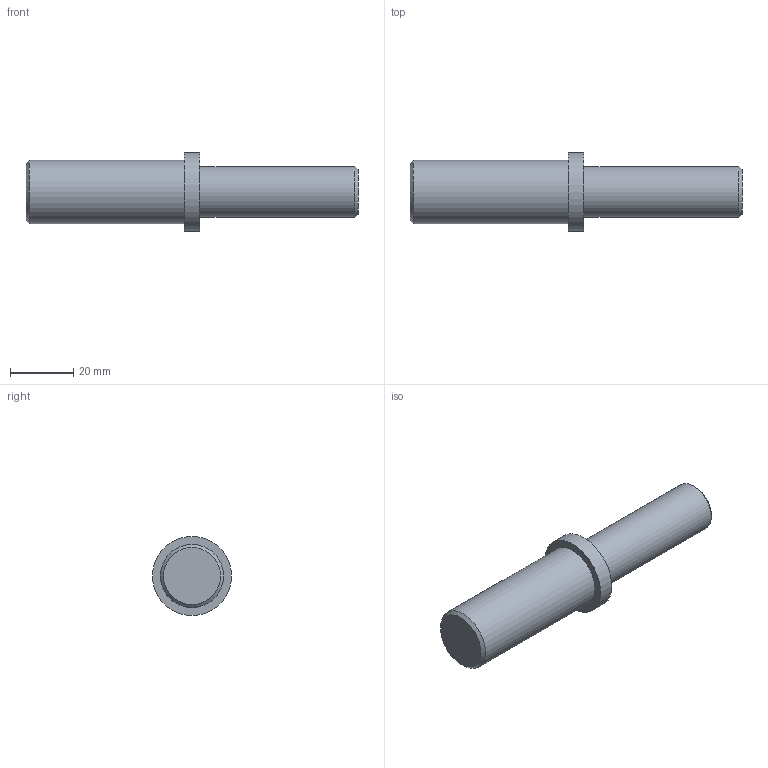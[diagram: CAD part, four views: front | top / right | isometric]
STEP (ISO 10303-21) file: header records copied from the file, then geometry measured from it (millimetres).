
FILE_DESCRIPTION( ( 'Unknown' ), '1' );
FILE_NAME( 'F:/navkite transat/construction/2016/3D ET ASSEMBLAGES/AMI/AMI 05.stp', 'Unknown', ( 'GMA' ), ( 'Unknown' ), 'XStep 1.0', 'Unknown', ' ' );
FILE_SCHEMA( ( 'automotive_design' ) );
Length unit declared in the file: millimetre
Products named in the file (1): 1
Bounding box: 105 x 25 x 25 mm (x, y, z)
Volume: 28161 mm3; surface area: 6960.5 mm2
Topology: 1 solids, 1 shells, 9 faces, 14 edges, 9 vertices
Faces by surface type: plane 4, cylinder 3, cone 2
Full cylindrical faces by diameter (mm): 16 x1, 20 x1, 25 x1
Entity records: 262 total; most frequent: DIRECTION 36, CARTESIAN_POINT 26, AXIS2_PLACEMENT_3D 18, EDGE_LOOP 16, ORIENTED_EDGE 16, FACE_OUTER_BOUND 12, STYLED_ITEM 9, PRESENTATION_STYLE_ASSIGNMENT 9
